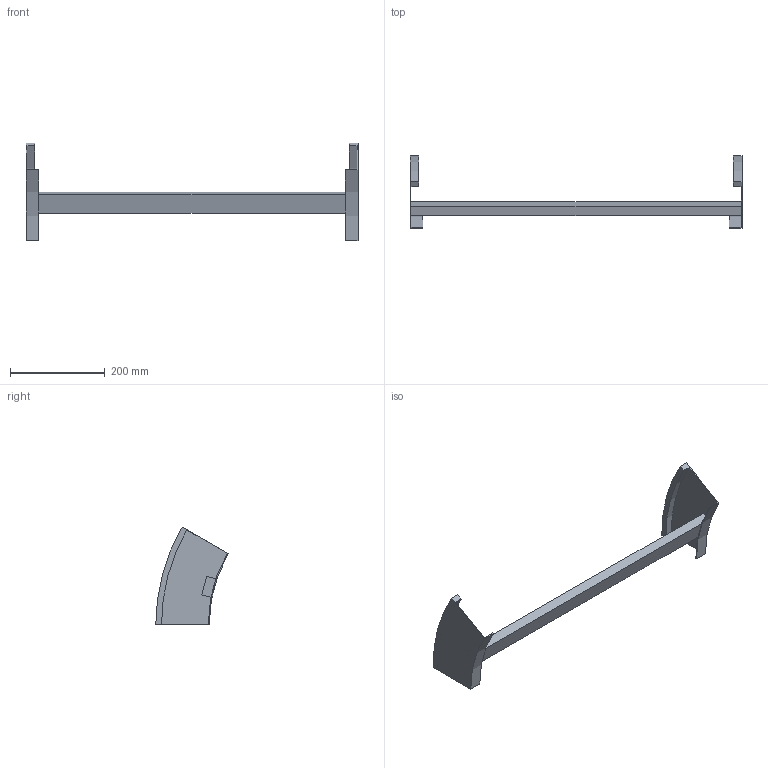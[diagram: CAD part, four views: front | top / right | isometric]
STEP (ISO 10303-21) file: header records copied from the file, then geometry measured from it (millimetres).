
FILE_DESCRIPTION (( 'STEP AP214' ), '1' );
FILE_NAME ('B2_35B3J700.step', '2025-02-21T14:48:52', ( '' ), ( '' ), 'SwSTEP 2.0', 'SolidWorks 2023', '' );
FILE_SCHEMA (( 'AUTOMOTIVE_DESIGN' ));
Length unit declared in the file: millimetre
Products named in the file (3): B2_LONGH.DISCESA_30°_H112.5_R300; TRAVERSINO_700; B2_35B3J700
Assembly tree (3 placements, depth 2):
  B2_35B3J700
    B2_LONGH.DISCESA_30°_H112.5_R300  x2
    TRAVERSINO_700
Bounding box: 700 x 152.69 x 206.25 mm (x, y, z)
Volume: 745191.4 mm3; surface area: 202518 mm2
Topology: 3 solids, 3 shells, 26 faces, 60 edges, 40 vertices
Faces by surface type: plane 18, cylinder 8
Entity records: 544 total; most frequent: DIRECTION 88, CARTESIAN_POINT 82, ORIENTED_EDGE 72, EDGE_CURVE 36, AXIS2_PLACEMENT_3D 30, VECTOR 28, LINE 28, VERTEX_POINT 24
